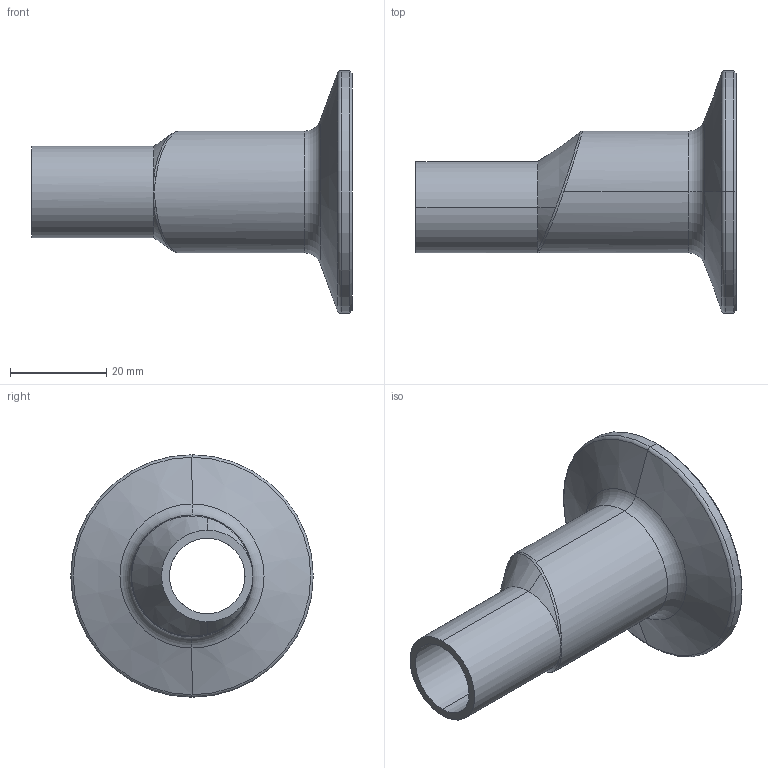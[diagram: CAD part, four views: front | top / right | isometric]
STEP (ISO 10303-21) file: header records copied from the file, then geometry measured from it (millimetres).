
FILE_DESCRIPTION (( 'STEP AP214' ), '1' );
FILE_NAME ('TE32SCW6L1x.75-...STEP', '2016-06-01T08:54:54', ( 'eran' ), ( '' ), 'SwSTEP 2.0', 'SolidWorks 2016', '' );
FILE_SCHEMA (( 'AUTOMOTIVE_DESIGN' ));
Length unit declared in the file: millimetre
Products named in the file (1): TE32SCW6L1x.75-..
Bounding box: 66.67 x 50.5 x 50.5 mm (x, y, z)
Volume: 18736.2 mm3; surface area: 11679.5 mm2
Topology: 1 solids, 1 shells, 47 faces, 104 edges, 56 vertices
Faces by surface type: cone 16, torus 13, cylinder 10, bspline 5, plane 3
Entity records: 1955 total; most frequent: CARTESIAN_POINT 918, DIRECTION 228, ORIENTED_EDGE 200, AXIS2_PLACEMENT_3D 102, EDGE_CURVE 100, CIRCLE 59, VERTEX_POINT 56, EDGE_LOOP 50
